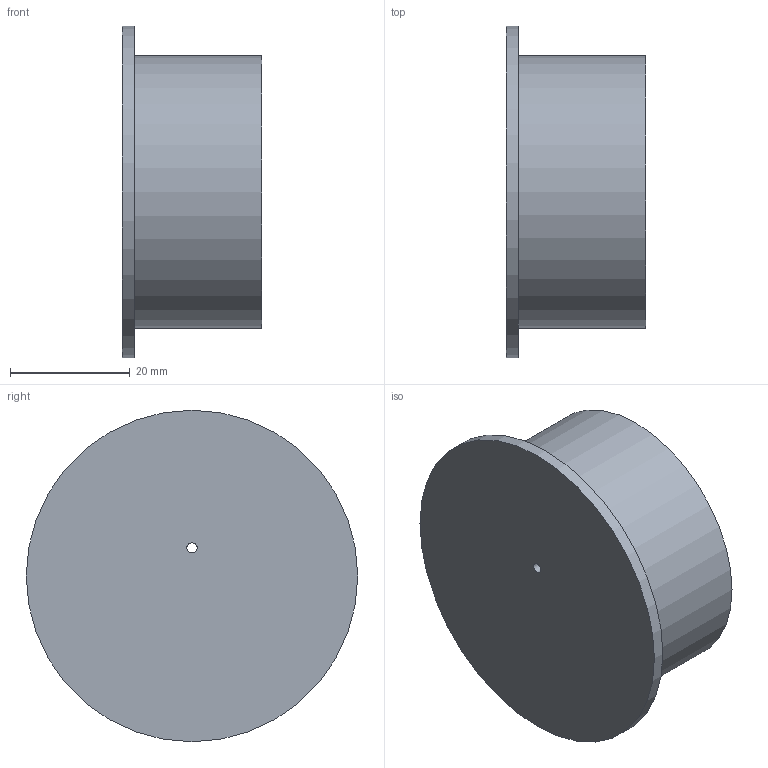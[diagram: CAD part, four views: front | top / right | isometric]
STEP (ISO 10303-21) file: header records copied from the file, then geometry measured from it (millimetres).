
FILE_DESCRIPTION( ('This file contains a STEP AP42 implementation' ,'as created by ZW3D STEP Interface translator.') ,'2;1' );
FILE_NAME( 'OGW-45.stp' ,'26 519. 74216', (''), ('ZWCAD Software Co.'), 'Version 1.0', 'ZW3D to STEP translator', '' );
FILE_SCHEMA(('AP242_MANAGED_MODEL_BASED_3D_ENGINEERING_MIM_LF { 1 0 10303 442 1 1 4 }'));
Length unit declared in the file: millimetre
Products named in the file (1): 0
Bounding box: 23.3 x 55.4 x 55.4 mm (x, y, z)
Volume: 7502.5 mm3; surface area: 11144.2 mm2
Topology: 1 solids, 1 shells, 8 faces, 12 edges, 8 vertices
Faces by surface type: cylinder 4, plane 4
Full cylindrical faces by diameter (mm): 1.7 x1, 43.7 x1, 45.5 x1, 55.4 x1
Entity records: 216 total; most frequent: DIRECTION 38, CARTESIAN_POINT 29, ORIENTED_EDGE 24, AXIS2_PLACEMENT_3D 17, EDGE_CURVE 12, EDGE_LOOP 12, VERTEX_POINT 8, CIRCLE 8
